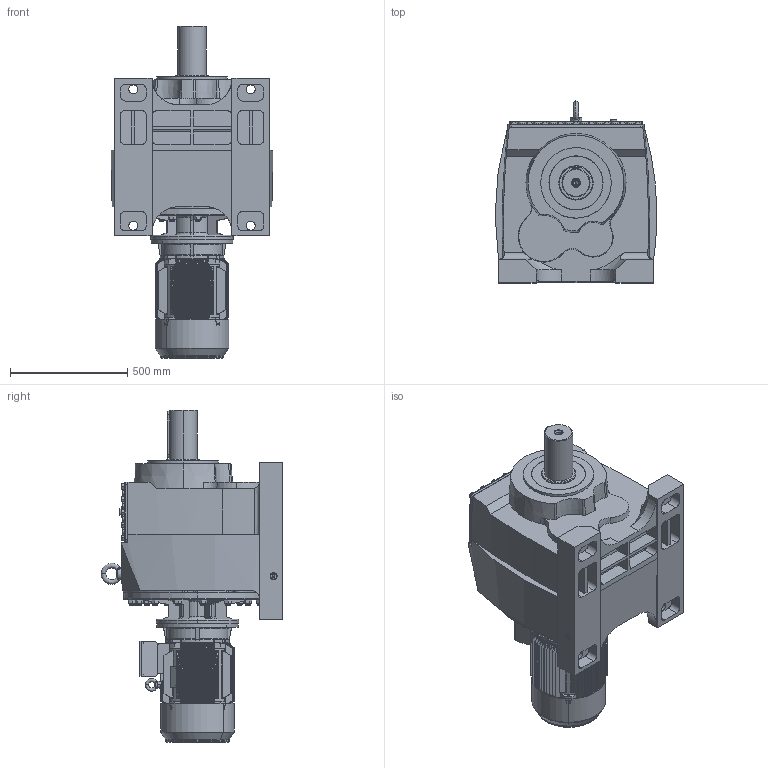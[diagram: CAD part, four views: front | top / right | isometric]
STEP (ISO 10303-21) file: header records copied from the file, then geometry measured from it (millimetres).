
FILE_DESCRIPTION (( 'STEP AP203' ), '1' );
FILE_NAME ('MV972-MV973-M3-160M.STEP', '2019-07-24T08:39:45', ( '' ), ( '' ), 'SwSTEP 2.0', 'SolidWorks 2012', '' );
FILE_SCHEMA (( 'CONFIG_CONTROL_DESIGN' ));
Products named in the file (15): M3-160M-FF-B5; MV972-MV973-M3-160M; Y2-160_shaft; Y2-160M+À+¿(B5)_-++ñ; +ª+§ªiY2-160ñ»ª­_-++ñ; Y2-160-180ñ»ª­®+_-++ñ; Y2-160-2ª¥--®+_-++ñ; Y2-160ñ»ª­+¿_-++ñ; +¦i-MN2-160_-++ñ; Eyebolts GB_GB_FASTENER_SCREWS_FRS M12; Y2-160-4Ý¾6Ý¾8-ª+---®+_-++ñ; ML9A_Varsayìlan; MN_97_3_0_A-B16_B5_ML9A_0_0_0_0_0_0_0_0_0_0_0_0_M1; M973_Varsayìlan; 93160B5_Varsayìlan
Assembly tree (14 placements, depth 4):
  MV972-MV973-M3-160M
    MN_97_3_0_A-B16_B5_ML9A_0_0_0_0_0_0_0_0_0_0_0_0_M1
      M973_Varsayìlan
      93160B5_Varsayìlan
      ML9A_Varsayìlan
    M3-160M-FF-B5
      Eyebolts GB_GB_FASTENER_SCREWS_FRS M12
      Y2-160-4Ý¾6Ý¾8-ª+---®+_-++ñ
      +¦i-MN2-160_-++ñ
      Y2-160-2ª¥--®+_-++ñ
      +ª+§ªiY2-160ñ»ª­_-++ñ
        Y2-160-180ñ»ª­®+_-++ñ
        Y2-160ñ»ª­+¿_-++ñ
      Y2-160M+À+¿(B5)_-++ñ
      Y2-160_shaft
Bounding box: 688.77 x 774.59 x 1413.5 mm (x, y, z)
Volume: 227944518.4 mm3; surface area: 6239958.5 mm2
Topology: 11 solids, 11 shells, 2838 faces, 7146 edges, 4446 vertices
Faces by surface type: plane 1000, cylinder 815, cone 746, bspline 174, torus 63, sphere 40
Entity records: 138424 total; most frequent: CARTESIAN_POINT 73709, ORIENTED_EDGE 14192, DIRECTION 11386, EDGE_CURVE 7096, VERTEX_POINT 4431, AXIS2_PLACEMENT_3D 4266, EDGE_LOOP 3117, LINE 2854
